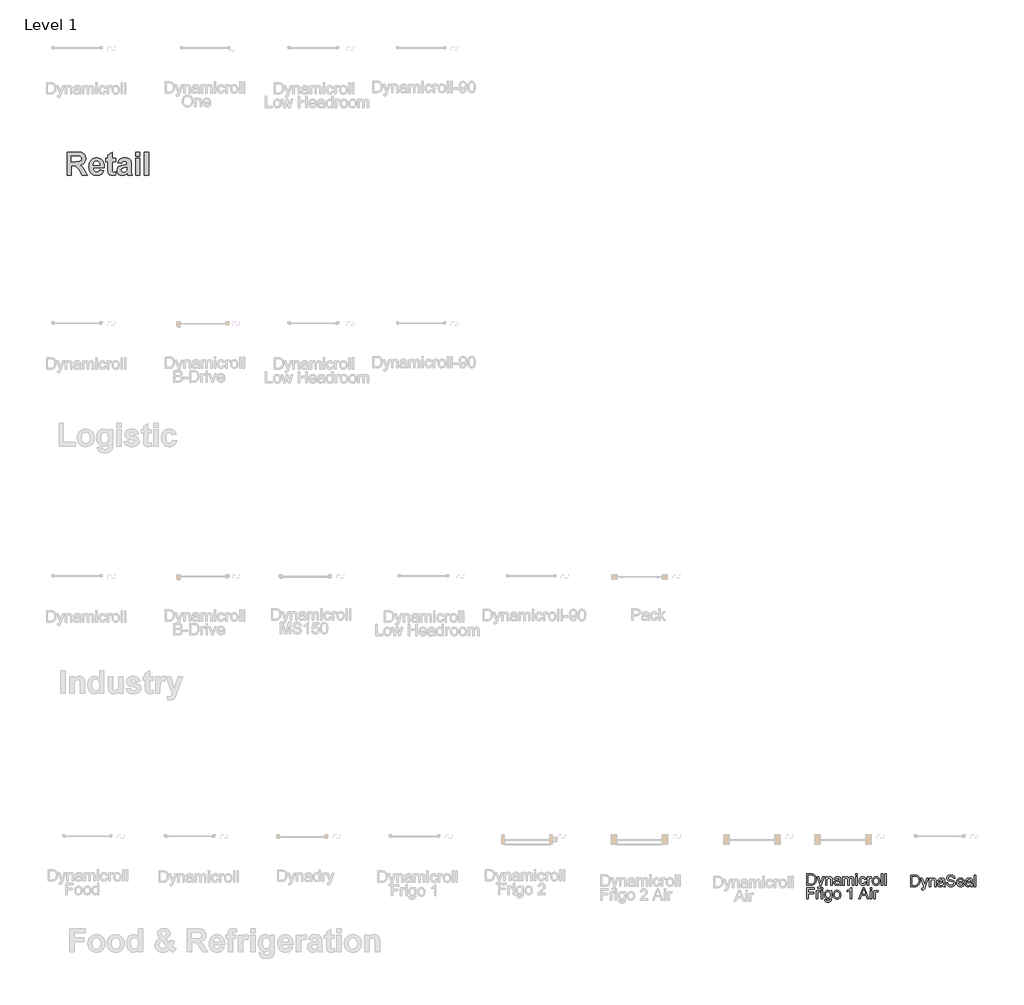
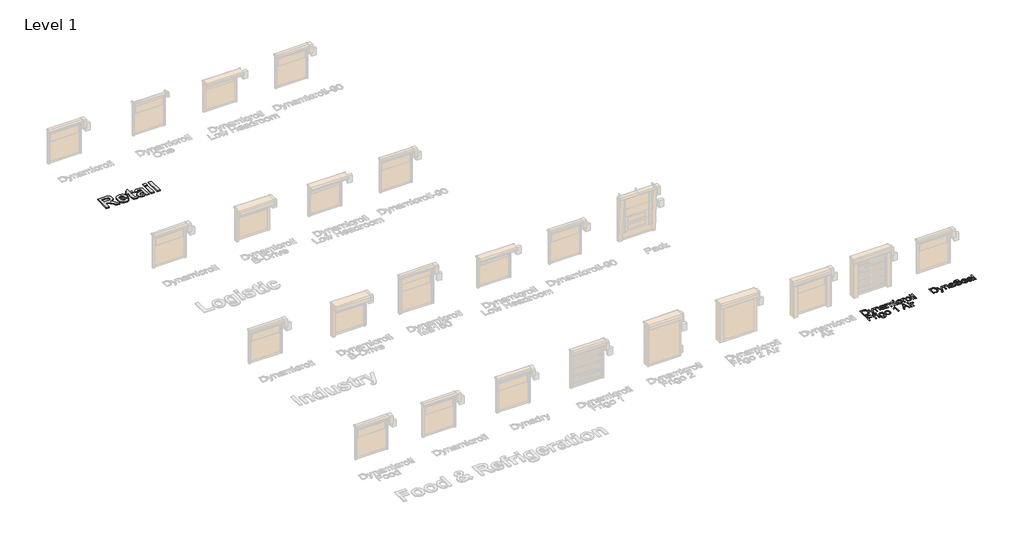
# One storey, part 12 of 20: 3 proxies.
"""IFC4 building model written with IfcOpenShell, lengths in millimetres."""

import ifcopenshell
import ifcopenshell.guid

model = None  # the IFC model being written
_history = None  # IfcOwnerHistory: only IFC2X3 demands one
_inside = {}  # id of a spatial element -> (the spatial element, [elements in it])
_under = {}  # id of a project, library or spatial element -> (it, [spatial elements below it])
_declared = {}  # id of a project -> (the project, [libraries it declares])
_typed = {}  # id of a type object -> (the type object, [elements of that type])
_made_of = {}  # id of a material, layer set ... -> (it, [elements and type objects made of it])


def new_model(schema):
    """Start an empty IFC model of exactly this schema.

    Asked for "IFC4X3", IfcOpenShell would pick the latest addendum, in which some entities
    have other attributes; the version numbers below select the first issue.
    IFC2X3 requires an IfcOwnerHistory on every rooted entity: one is made here for all.
    """
    global model, _history
    if schema == "IFC4X3":
        model = ifcopenshell.file(schema_version=(4, 3, 0, 0))
    else:
        model = ifcopenshell.file(schema=schema)
    _inside.clear()
    _under.clear()
    _declared.clear()
    _typed.clear()
    _made_of.clear()
    _history = None
    if model.schema == "IFC2X3":
        org = make("IfcOrganization", Name="unknown")
        user = make(
            "IfcPersonAndOrganization",
            ThePerson=make("IfcPerson", FamilyName="unknown"),
            TheOrganization=org,
        )
        app = make(
            "IfcApplication",
            ApplicationDeveloper=org,
            Version="unknown",
            ApplicationFullName="unknown",
            ApplicationIdentifier="unknown",
        )
        _history = make(
            "IfcOwnerHistory",
            OwningUser=user,
            OwningApplication=app,
            ChangeAction="ADDED",
            CreationDate=0,
        )
    return model


def make(cls, **values):
    """One entity of the class cls with the attributes given. An attribute that is None is left unset."""
    return model.create_entity(
        cls, **{name: value for name, value in values.items() if value is not None}
    )


def rooted(cls, **values):
    """An entity with a GlobalId (a new one), such as an element, a storey or a relation."""
    return make(cls, GlobalId=ifcopenshell.guid.new(), OwnerHistory=_history, **values)


def si_unit(unit_type, name, prefix=None):
    """IfcSIUnit, for example si_unit("LENGTHUNIT", "METRE", prefix="MILLI")."""
    return make("IfcSIUnit", UnitType=unit_type, Prefix=prefix, Name=name)


def assignment(units):
    """IfcUnitAssignment: the units of a project."""
    return None if units is None else make("IfcUnitAssignment", Units=units)


def point(xyz):
    """IfcCartesianPoint."""
    return None if xyz is None else make("IfcCartesianPoint", Coordinates=xyz)


def direction(xyz):
    """IfcDirection."""
    return None if xyz is None else make("IfcDirection", DirectionRatios=xyz)


def frame(location, z_axis=None, x_axis=None):
    """IfcAxis2Placement3D, a coordinate frame: its origin and axes. An axis left out is left unset."""
    return make(
        "IfcAxis2Placement3D",
        Location=point(location),
        Axis=direction(z_axis),
        RefDirection=direction(x_axis),
    )


def origin():
    """The frame at (0, 0, 0) with its axes left unset."""
    return frame((0.0, 0.0, 0.0))


def origin_with_axes():
    """The frame at (0, 0, 0) with the z axis (0, 0, 1) and the x axis (1, 0, 0) written out."""
    return frame((0.0, 0.0, 0.0), z_axis=(0.0, 0.0, 1.0), x_axis=(1.0, 0.0, 0.0))


def place(relative_to, where):
    """IfcLocalPlacement: puts the frame where relative to a parent placement (None: the world)."""
    return make(
        "IfcLocalPlacement", PlacementRelTo=relative_to, RelativePlacement=where
    )


def context(
    kind, dimensions, precision=None, world=None, true_north=None, identifier=None
):
    """IfcGeometricRepresentationContext, for example the 3D "Model" context."""
    return make(
        "IfcGeometricRepresentationContext",
        ContextIdentifier=identifier,
        ContextType=kind,
        CoordinateSpaceDimension=dimensions,
        Precision=precision,
        WorldCoordinateSystem=world,
        TrueNorth=true_north,
    )


def project(units=None, contexts=None):
    """IfcProject with its units and contexts."""
    return rooted(
        "IfcProject",
        Name="project",
        RepresentationContexts=contexts,
        UnitsInContext=assignment(units),
    )


def spatial(cls, under=None, at=None, **own):
    """A site, building, storey or space (cls), placed at a placement, below another one or the project."""
    s = rooted(cls, ObjectPlacement=at, **own)
    if under is not None:
        _under.setdefault(under.id(), (under, []))[1].append(s)
    return s


def polyline(points):
    """IfcPolyline through the points."""
    return make("IfcPolyline", Points=[point(p) for p in points])


def outline(outer, holes=None, kind="AREA"):
    """IfcArbitraryClosedProfileDef: a profile drawn as a closed curve; with holes, ...WithVoids."""
    if holes is None:
        return make("IfcArbitraryClosedProfileDef", ProfileType=kind, OuterCurve=outer)
    return make(
        "IfcArbitraryProfileDefWithVoids",
        ProfileType=kind,
        OuterCurve=outer,
        InnerCurves=holes,
    )


def extrude(swept, where, along, depth):
    """IfcExtrudedAreaSolid: the profile swept, set in the frame where, extruded along a direction by depth."""
    return make(
        "IfcExtrudedAreaSolid",
        SweptArea=swept,
        Position=where,
        ExtrudedDirection=direction(along),
        Depth=depth,
    )


def shape(context_of_items, identifier, shape_type, items):
    """IfcShapeRepresentation: the items that make up one representation, for example the "Body"."""
    return make(
        "IfcShapeRepresentation",
        ContextOfItems=context_of_items,
        RepresentationIdentifier=identifier,
        RepresentationType=shape_type,
        Items=items,
    )


def made_of(thing, what):
    """Note that an element or type object is made of a material, layer set ...; save() writes the relation."""
    if what is not None:
        _made_of.setdefault(what.id(), (what, []))[1].append(thing)
    return thing


def element(
    cls,
    number,
    at=None,
    inside=None,
    cuts=None,
    type_object=None,
    material=None,
    context=None,
    identifier="Body",
    shape_type=None,
    held_by="IfcProductDefinitionShape",
    body=None,
    shapes=None,
    **own,
):
    """One element of the class cls, such as IfcWall. Its Tag is "e" and its number.

    at: its placement. inside: the storey or other place that contains it. cuts: it is an
    opening in that element (IfcRelVoidsElement). A single representation is given by context,
    identifier, shape_type and body (its items); several are given by shapes. held_by: the class
    of the entity that holds the representations. save() writes the other relations.
    """
    e = rooted(cls, Tag="e%d" % number, ObjectPlacement=at, **own)
    if body is not None:
        shapes = [shape(context, identifier, shape_type, body)]
    if shapes is not None:
        e.Representation = make(held_by, Representations=shapes)
    if inside is not None:
        _inside.setdefault(inside.id(), (inside, []))[1].append(e)
    if cuts is not None:
        rooted(
            "IfcRelVoidsElement", RelatingBuildingElement=cuts, RelatedOpeningElement=e
        )
    if type_object is not None:
        _typed.setdefault(type_object.id(), (type_object, []))[1].append(e)
    return made_of(e, material)


def aggregate(whole, parts):
    """IfcRelAggregates: a whole, such as a stair, and the parts it consists of."""
    return rooted("IfcRelAggregates", RelatingObject=whole, RelatedObjects=parts)


def save(model, path):
    """Write the relations noted so far, then the file.

    IfcRelAggregates (storeys below a building ...), IfcRelContainedInSpatialStructure (elements
    in a storey), IfcRelDefinesByType, IfcRelAssociatesMaterial and IfcRelDeclares: one each for
    every whole, place, type object, material and project.
    """
    for whole, parts in _under.values():
        aggregate(whole, parts)
    for where, things in _inside.values():
        rooted(
            "IfcRelContainedInSpatialStructure",
            RelatedElements=things,
            RelatingStructure=where,
        )
    for kind, things in _typed.values():
        rooted("IfcRelDefinesByType", RelatedObjects=things, RelatingType=kind)
    for what, things in _made_of.values():
        rooted("IfcRelAssociatesMaterial", RelatedObjects=things, RelatingMaterial=what)
    for by, libraries in _declared.values():
        rooted("IfcRelDeclares", RelatingContext=by, RelatedDefinitions=libraries)
    model.write(path)


model = new_model("IFC4")

# Units and contexts
model_context = context("Model", 3, world=origin())
ifc_project = project(units=[si_unit("LENGTHUNIT", "METRE", prefix="MILLI")], contexts=[model_context])

# Site, building, storey
site = spatial("IfcSite", under=ifc_project)
building = spatial("IfcBuilding", under=site)
storey = spatial("IfcBuildingStorey", under=building, Name="Level 1", Elevation=0.0)

# Proxies
placement = place(None, origin())
element("IfcBuildingElementProxy", 1, Name="1000", ObjectType="1000", at=placement, inside=storey, context=model_context, shape_type="SweptSolid", body=[
    extrude(outline(polyline([(1045.7794526, 38987.0003222), (1045.7794526, 40007.2597221), (1474.9361844, 40007.2597221), (1550.3738911, 40005.5358836), (1614.7410749, 40000.3643678), (1668.0377356, 39991.7451749), (1710.2638733, 39979.6783048), (1745.1202058, 39963.1990406), (1776.3074506, 39941.3426652), (1803.8256077, 39914.1091786), (1827.6746773, 39881.4985808), (1846.9373873, 39844.9184098), (1860.6964659, 39805.7762035), (1868.9519131, 39764.0719618), (1871.7037288, 39719.8056849), (1867.726248, 39664.6270352), (1855.7938057, 39614.477566), (1835.9064019, 39569.3572772), (1808.0640366, 39529.2661689), (1772.2983397, 39495.1689581), (1728.6409415, 39468.0303617), (1677.0918419, 39447.8503798), (1617.6510409, 39434.6290123), (1674.015818, 39394.0160079), (1719.6263728, 39349.6073956), (1766.8184308, 39285.271842), (1827.9277178, 39184.8780134), (1952.676697, 38987.0003222), (1725.6993454, 38987.0003222), (1577.9236784, 39220.0506464), (1506.53462, 39309.5321024), (1461.9045973, 39358.3372938), (1429.7051904, 39382.3445137), (1395.6079795, 39397.432055), (1350.3453555, 39405.4028316), (1284.649709, 39408.0597571), (1240.1145764, 39408.0597571), (1240.1145764, 38987.0003222), (1045.7794526, 38987.0003222)]), holes=[polyline([(1240.1145764, 39586.2002872), (1400.2892293, 39586.2002872), (1526.7146019, 39589.1418834), (1568.0313753, 39592.8188785), (1594.7508733, 39597.9666717), (1629.3541652, 39613.9714849), (1655.4805995, 39638.4531558), (1665.0566019, 39653.706755), (1671.8966036, 39670.7474529), (1677.368605, 39710.1901449), (1675.5656912, 39733.1931102), (1670.15695, 39753.8712656), (1661.1423813, 39772.2246113), (1648.521985, 39788.2531471), (1632.612062, 39801.7512776), (1613.7289127, 39812.5134075), (1591.8725373, 39820.5395367), (1567.0429357, 39825.8296652), (1409.1456477, 39829.119192), (1240.1145764, 39829.119192), (1240.1145764, 39586.2002872)])]), origin_with_axes(), (0.0, 0.0, 1.0), 50.0),
    extrude(outline(polyline([(2487.0982875, 39213.7246333), (2681.4334113, 39181.335446), (2660.4310477, 39132.9177229), (2634.114833, 39090.6520476), (2602.4847672, 39054.53842), (2565.5408505, 39024.5768403), (2523.457048, 39001.0519789), (2476.4073253, 38984.2485065), (2424.3916822, 38974.166423), (2367.4101188, 38970.8057285), (2321.8746854, 38972.7865614), (2279.3994609, 38978.72906), (2239.9844453, 38988.6332243), (2203.6296385, 39002.4990544), (2170.3350406, 39020.3265502), (2140.1006515, 39042.1157117), (2112.9264713, 39067.866539), (2088.8124999, 39097.579032), (2057.593625, 39151.6506293), (2035.2944287, 39212.3961705), (2021.9149109, 39279.8156556), (2017.4550716, 39353.9090846), (2023.3698939, 39441.2713261), (2030.7634218, 39481.2042841), (2041.1143608, 39518.6384669), (2054.422711, 39553.5738744), (2070.6884722, 39586.0105068), (2089.9116447, 39615.9483641), (2112.0922283, 39643.3874461), (2136.5343616, 39667.9402846), (2162.5421831, 39689.2194113), (2190.1156929, 39707.2248262), (2219.2548909, 39721.9565293), (2249.9597772, 39733.4145206), (2282.2303518, 39741.5988001), (2316.0666146, 39746.5093678), (2351.4685657, 39748.1462237), (2391.0101016, 39746.4658765), (2428.4087005, 39741.4248348), (2463.6643625, 39733.0230986), (2496.7770876, 39721.2606679), (2527.7468757, 39706.1375427), (2556.5737269, 39687.653723), (2583.257641, 39665.8092089), (2607.7986183, 39640.6040003), (2629.7380226, 39611.9273919), (2648.6172181, 39579.6686787), (2664.4362047, 39543.8278604), (2677.1949825, 39504.4049373), (2686.8935514, 39461.3999092), (2693.5319114, 39414.8127761), (2697.1100626, 39364.6435381), (2697.6280049, 39310.8921952), (2211.7901954, 39310.8921952), (2215.411838, 39267.4008548), (2224.2524413, 39229.0335851), (2238.3120055, 39195.790386), (2257.5905306, 39167.6712576), (2280.8228139, 39145.3088011), (2306.7436527, 39129.3356179), (2335.3530472, 39119.751708), (2366.6509972, 39116.5570714), (2407.453782, 39122.3137434), (2425.245694, 39129.5095833), (2441.2979523, 39139.5837592), (2455.5472969, 39152.8525718), (2467.9304677, 39169.6323217), (2487.0982875, 39213.7246333)]), holes=[polyline([(2503.2928811, 39424.2543507), (2499.8293889, 39465.2864535), (2491.4632366, 39501.0837804), (2478.194424, 39531.6463314), (2460.0229512, 39556.9741065), (2438.2930961, 39576.8456953), (2414.3491363, 39591.0396873), (2388.191072, 39599.5560825), (2359.818903, 39602.3948809), (2329.6754504, 39599.4058397), (2302.2521834, 39590.438716), (2277.5491021, 39575.49351), (2255.5662064, 39554.5702215), (2237.6635892, 39528.3963421), (2224.9483028, 39497.9524039), (2217.4203471, 39463.2384067), (2215.0797223, 39424.2543507), (2503.2928811, 39424.2543507)])]), origin_with_axes(), (0.0, 0.0, 1.0), 50.0),
    extrude(outline(polyline([(3199.6604081, 39731.9516301), (3199.6604081, 39586.2002872), (3053.9090652, 39586.2002872), (3053.9090652, 39266.6101032), (3055.0161175, 39189.9071938), (3058.3372744, 39153.6275084), (3065.5805595, 39138.9511579), (3078.4539962, 39127.0582532), (3095.8505324, 39119.1823668), (3116.6631156, 39116.5570714), (3155.1252756, 39121.2383211), (3207.7577049, 39135.2820703), (3215.8550017, 38997.1219432), (3179.5278713, 38985.6085993), (3140.891746, 38977.3847822), (3099.9466259, 38972.450492), (3056.692511, 38970.8057285), (3004.9457235, 38975.360458), (2958.512787, 38989.0246464), (2920.5883382, 39009.9004898), (2894.3670137, 39036.0901842), (2877.0653678, 39070.0608748), (2865.8999546, 39114.2797067), (2861.1554447, 39167.1019164), (2859.5739414, 39255.7293606), (2859.5739414, 39586.2002872), (2762.4063795, 39586.2002872), (2762.4063795, 39731.9516301), (2859.5739414, 39731.9516301), (2859.5739414, 39877.7029729), (3053.9090652, 39991.0651285), (3053.9090652, 39731.9516301), (3199.6604081, 39731.9516301)])), origin_with_axes(), (0.0, 0.0, 1.0), 50.0),
    extrude(outline(polyline([(3474.9685001, 39505.227319), (3296.82797, 39537.6165063), (3313.5681823, 39587.7817905), (3335.4482802, 39630.9884603), (3362.4682639, 39667.2365156), (3394.6281332, 39696.5259565), (3433.5568366, 39719.1098234), (3480.8833224, 39735.2411569), (3536.6075907, 39744.919957), (3600.7296415, 39748.1462237), (3658.8815173, 39746.1930672), (3709.0942466, 39740.3335975), (3751.3678295, 39730.5678147), (3785.7022658, 39716.8957188), (3813.8213942, 39700.2266742), (3837.4490533, 39681.4700452), (3856.5852431, 39660.6258319), (3871.2299635, 39637.6940342), (3882.0790761, 39608.6971715), (3889.8284422, 39569.6577629), (3894.4780618, 39520.5758084), (3896.027935, 39461.451308), (3896.027935, 39231.6905106), (3898.5899704, 39146.4158534), (3906.2760763, 39086.9513299), (3920.9840569, 39038.6838496), (3944.611716, 38987.0003222), (3750.2765922, 38987.0003222), (3732.0576743, 39048.7422105), (3725.2255801, 39073.2871415), (3674.9337756, 39028.5305985), (3621.225924, 38996.4893419), (3593.0593505, 38985.2527611), (3563.9755051, 38977.2266319), (3533.9743878, 38972.4109544), (3503.0559985, 38970.8057285), (3450.573812, 38974.7041341), (3403.9590026, 38986.3993509), (3363.2115704, 39005.8913789), (3328.3315155, 39033.1802181), (3300.3784449, 39066.4155097), (3280.4119659, 39103.7468948), (3268.4320785, 39145.1743734), (3264.4387827, 39190.6979454), (3266.2179739, 39221.3474791), (3271.5555475, 39250.2889893), (3280.4515035, 39277.5224759), (3292.9058418, 39303.0479389), (3308.5706319, 39326.2802222), (3327.0979429, 39346.6341695), (3348.4877748, 39364.1097808), (3372.7401277, 39378.7070561), (3435.430918, 39403.3152472), (3520.7688353, 39424.5073913), (3631.2842849, 39449.4951432), (3701.6928112, 39472.8381317), (3701.6928112, 39493.3344143), (3700.1824756, 39520.6944211), (3695.6514687, 39543.8159992), (3688.0997905, 39562.6991484), (3677.527441, 39577.3438688), (3662.7799229, 39588.3036866), (3642.7027387, 39596.1321279), (3617.2958884, 39600.8291926), (3586.559372, 39602.3948809), (3546.2626683, 39597.0177697), (3529.8624792, 39590.2963808), (3515.9610653, 39580.8864362), (3503.9100103, 39568.0920746), (3493.0608977, 39551.2174346), (3474.9685001, 39505.227319)]), holes=[polyline([(3701.6928112, 39327.0867888), (3592.1262636, 39300.1379728), (3530.1313348, 39284.6708707), (3493.9465396, 39269.393549), (3478.5585126, 39256.409407), (3467.5670648, 39241.7488715), (3460.9721961, 39225.4119426), (3458.7739065, 39207.3986201), (3460.5372827, 39189.5513556), (3465.8274112, 39172.9534786), (3474.644292, 39157.6049892), (3486.9879251, 39143.5058874), (3502.0517439, 39131.7157804), (3519.0291817, 39123.2942754), (3537.9202385, 39118.2413724), (3558.7249142, 39116.5570714), (3582.8428393, 39118.5181355), (3606.3597932, 39124.4013277), (3629.2757758, 39134.2066481), (3651.5907871, 39147.9340966), (3678.7926437, 39174.3768315), (3694.6076765, 39206.1334175), (3699.9215276, 39238.8389055), (3701.6928112, 39291.9141558), (3701.6928112, 39327.0867888)])]), origin_with_axes(), (0.0, 0.0, 1.0), 50.0),
    extrude(outline(polyline([(4090.3630589, 39829.119192), (4090.3630589, 40007.2597221), (4284.6981827, 40007.2597221), (4284.6981827, 39829.119192), (4090.3630589, 39829.119192)])), origin_with_axes(), (0.0, 0.0, 1.0), 50.0),
    extrude(outline(polyline([(4090.3630589, 38987.0003222), (4090.3630589, 39731.9516301), (4284.6981827, 39731.9516301), (4284.6981827, 38987.0003222), (4090.3630589, 38987.0003222)])), origin_with_axes(), (0.0, 0.0, 1.0), 50.0),
    extrude(outline(polyline([(4479.0333065, 38987.0003222), (4479.0333065, 40007.2597221), (4673.3684303, 40007.2597221), (4673.3684303, 38987.0003222), (4479.0333065, 38987.0003222)])), origin_with_axes(), (0.0, 0.0, 1.0), 50.0),
])
element("IfcBuildingElementProxy", 2, Name="500mm", ObjectType="500mm", at=placement, inside=storey, context=model_context, shape_type="SweptSolid", body=[
    extrude(outline(polyline([(33930.581434, 7417.4459168), (33930.581434, 7919.7274676), (34103.8538537, 7919.7274676), (34155.6332446, 7917.9187144), (34193.4944332, 7912.492455), (34233.532257, 7898.543596), (34267.3160869, 7876.5626468), (34285.9324487, 7858.5977427), (34302.0502786, 7838.3029193), (34315.6695767, 7815.6781766), (34326.7903428, 7790.7235146), (34341.5975931, 7734.7441377), (34346.5333432, 7671.2844935), (34343.1917484, 7617.3744528), (34333.1669641, 7569.9330038), (34317.8998613, 7529.5426265), (34298.8313112, 7496.7858005), (34276.8810188, 7470.9267619), (34252.9686891, 7451.2297467), (34225.5154952, 7436.6217658), (34192.9426102, 7426.0298301), (34155.1887205, 7419.5918951), (34112.1925123, 7417.4459168), (33930.581434, 7417.4459168)]), holes=[polyline([(33993.3666279, 7480.2311107), (34104.4669904, 7480.2311107), (34150.421583, 7482.4997163), (34185.278402, 7489.3055332), (34211.5819647, 7500.2500226), (34231.8767881, 7514.9346456), (34253.6891247, 7542.111928), (34270.0752019, 7577.2906437), (34280.3299125, 7620.6240771), (34283.7481494, 7672.2655122), (34282.0735199, 7708.7164865), (34277.0496314, 7740.6915633), (34268.6764839, 7768.1907424), (34256.9540774, 7791.2140239), (34242.8327737, 7810.282574), (34227.2629347, 7825.9175588), (34210.2445603, 7838.1189783), (34191.7776506, 7846.8868325), (34155.6639014, 7854.4284134), (34102.7502078, 7856.9422737), (33993.3666279, 7856.9422737), (33993.3666279, 7480.2311107)])]), origin_with_axes(), (0.0, 0.0, 1.0), 5.0),
    extrude(outline(polyline([(34425.0148355, 7276.1792307), (34417.1666863, 7336.6345052), (34449.0497925, 7331.1162753), (34465.8190802, 7332.8483864), (34478.8482342, 7338.0447195), (34488.9956459, 7346.3373929), (34497.1197066, 7357.3585243), (34514.287533, 7403.5890284), (34519.1926263, 7418.7948175), (34385.7740894, 7786.3089307), (34451.9928485, 7786.3089307), (34522.7488189, 7581.5212867), (34547.3969126, 7499.6062291), (34572.0450063, 7571.9563548), (34644.763014, 7786.3089307), (34710.4912638, 7786.3089307), (34582.1004475, 7408.616749), (34548.7458132, 7326.7016914), (34531.6699573, 7300.5514129), (34512.3254957, 7282.4332246), (34489.8540372, 7271.8566172), (34463.3971904, 7268.3310815), (34445.2176884, 7270.2931188), (34425.0148355, 7276.1792307)])), origin_with_axes(), (0.0, 0.0, 1.0), 5.0),
    extrude(outline(polyline([(34762.4852524, 7417.4459168), (34762.4852524, 7786.3089307), (34825.2704463, 7786.3089307), (34825.2704463, 7734.8054513), (34847.0827829, 7760.7717888), (34873.2790467, 7779.3191728), (34903.8592375, 7790.4476031), (34938.8233555, 7794.1570799), (34969.7714283, 7791.1680387), (34998.1136703, 7782.2009151), (35021.7500885, 7768.3746834), (35038.5806898, 7750.8083181), (35050.0003601, 7729.5478045), (35057.4039852, 7704.6391277), (35060.7149232, 7643.9385985), (35060.7149232, 7417.4459168), (34997.9297294, 7417.4459168), (34997.9297294, 7635.4773126), (34996.1209762, 7667.9428987), (34990.6947168, 7691.0274939), (34980.6852608, 7707.5668553), (34965.1269181, 7720.3967399), (34945.1846483, 7728.6280995), (34922.023411, 7731.3718861), (34902.958693, 7729.8313802), (34885.2505399, 7725.2098626), (34868.8989516, 7717.5073334), (34853.9039282, 7706.7237924), (34841.3767799, 7691.6329664), (34832.4288168, 7671.008582), (34827.0600389, 7644.8506393), (34825.2704463, 7613.1591383), (34825.2704463, 7417.4459168), (34762.4852524, 7417.4459168)])), origin_with_axes(), (0.0, 0.0, 1.0), 5.0),
    extrude(outline(polyline([(35382.4890416, 7464.5348122), (35352.4913306, 7438.8137294), (35321.6045714, 7421.9831281), (35289.123657, 7412.6941077), (35254.34348, 7409.5977676), (35226.3882805, 7411.4601702), (35201.8743104, 7417.047378), (35180.8015699, 7426.359391), (35163.1700589, 7439.3962092), (35149.2480246, 7455.3300981), (35139.3037144, 7473.3333233), (35133.3371283, 7493.4058846), (35131.3482663, 7515.5477822), (35134.3526359, 7541.5754334), (35143.3657448, 7565.2118516), (35157.2686185, 7585.4453613), (35174.9422827, 7601.2642871), (35195.712287, 7613.2204519), (35218.9041811, 7621.8656788), (35273.2280891, 7631.3079834), (35337.4234972, 7641.2407972), (35382.1211596, 7652.8903938), (35382.4890416, 7666.8699096), (35378.1664282, 7694.8902549), (35365.1985879, 7713.223041), (35352.1234486, 7721.1631607), (35336.1972239, 7726.8346748), (35295.7915181, 7731.3718861), (35258.3901819, 7728.352188), (35232.2705603, 7719.2930939), (35214.4589403, 7702.5391347), (35201.9816093, 7676.4348414), (35139.1964155, 7684.2829907), (35150.0949196, 7718.6186436), (35166.3583695, 7745.5966565), (35189.5042783, 7766.2287051), (35221.0501594, 7781.5264647), (35259.6317837, 7790.9994261), (35303.884922, 7794.1570799), (35346.3293072, 7791.3673081), (35379.9751813, 7782.9979927), (35405.3437106, 7770.4133628), (35422.9560611, 7754.9776474), (35434.6363145, 7735.8937689), (35442.2085522, 7712.3646496), (35445.2742355, 7657.427605), (35445.2742355, 7579.3139947), (35448.4625461, 7470.2369831), (35453.1836984, 7443.2742986), (35460.9705339, 7417.4459168), (35398.1853401, 7417.4459168), (35388.1298989, 7439.2735819), (35382.4890416, 7464.5348122)]), holes=[polyline([(35382.4890416, 7590.1051999), (35340.3052395, 7579.6512199), (35281.1988656, 7570.8527088), (35227.181526, 7560.6746403), (35213.1253681, 7553.7155392), (35202.7173733, 7544.1199505), (35196.2794384, 7532.6236382), (35194.1334601, 7519.9623662), (35198.8086271, 7501.2923549), (35212.8341282, 7485.9945953), (35235.903395, 7475.7858699), (35267.7098591, 7472.3829615), (35301.4323754, 7476.1384235), (35331.230817, 7487.4048096), (35355.3884013, 7504.0054846), (35372.1883458, 7523.7638134), (35379.6379562, 7544.1199505), (35382.1211596, 7572.3242368), (35382.4890416, 7590.1051999)])]), origin_with_axes(), (0.0, 0.0, 1.0), 5.0),
    extrude(outline(polyline([(35531.603877, 7417.4459168), (35531.603877, 7786.3089307), (35594.3890709, 7786.3089307), (35594.3890709, 7725.6084015), (35613.27368, 7753.490791), (35637.5538916, 7775.3337845), (35666.4019714, 7789.451256), (35698.9901848, 7794.1570799), (35733.9083175, 7789.3592855), (35761.898006, 7774.9659025), (35782.8059661, 7751.9272925), (35796.4789135, 7721.1938175), (35819.3642393, 7753.1152448), (35845.4685326, 7775.9162643), (35874.7917933, 7789.596876), (35907.3340214, 7794.1570799), (35932.4687923, 7792.2601884), (35954.5302157, 7786.5695137), (35973.5182916, 7777.0850561), (35989.43302, 7763.8068153), (36002.0138178, 7746.5815073), (36011.000102, 7725.2558479), (36016.3918725, 7699.8298371), (36018.1891293, 7670.3034749), (36018.1891293, 7417.4459168), (35955.4039355, 7417.4459168), (35955.4039355, 7643.3254619), (35953.9477359, 7674.6414167), (35949.5791372, 7695.7486462), (35941.3937628, 7710.2033429), (35928.4872362, 7721.5616995), (35911.8865611, 7728.9193394), (35892.6187416, 7731.3718861), (35874.8262822, 7729.8007234), (35858.6049855, 7725.0872353), (35843.9548514, 7717.2314219), (35830.8758801, 7706.2332831), (35820.1191638, 7691.7709221), (35812.4357951, 7673.5224423), (35807.8257738, 7651.4878436), (35806.2891001, 7625.6671261), (35806.2891001, 7417.4459168), (35743.5039062, 7417.4459168), (35743.5039062, 7650.3152198), (35739.8710715, 7685.8158323), (35728.9725674, 7711.1383763), (35720.5457705, 7719.9905368), (35709.7967184, 7726.3135086), (35681.3318491, 7731.3718861), (35657.1436079, 7727.9996344), (35634.8560903, 7717.8828796), (35616.4619906, 7701.2668761), (35603.9540027, 7678.3968788), (35596.7803038, 7646.6670567), (35594.3890709, 7603.4715791), (35594.3890709, 7417.4459168), (35531.603877, 7417.4459168)])), origin_with_axes(), (0.0, 0.0, 1.0), 5.0),
    extrude(outline(polyline([(36112.3669201, 7856.9422737), (36112.3669201, 7919.7274676), (36175.1521139, 7919.7274676), (36175.1521139, 7856.9422737), (36112.3669201, 7856.9422737)])), origin_with_axes(), (0.0, 0.0, 1.0), 5.0),
    extrude(outline(polyline([(36112.3669201, 7417.4459168), (36112.3669201, 7786.3089307), (36175.1521139, 7786.3089307), (36175.1521139, 7417.4459168), (36112.3669201, 7417.4459168)])), origin_with_axes(), (0.0, 0.0, 1.0), 5.0),
    extrude(outline(polyline([(36504.7743816, 7550.8644538), (36567.5595754, 7543.0163045), (36560.7307659, 7513.3903076), (36550.0545238, 7487.1748833), (36535.5308492, 7464.3700317), (36517.1597421, 7444.9757528), (36495.7152875, 7429.4978843), (36471.9715704, 7418.4422639), (36445.9285908, 7411.8088917), (36417.5863487, 7409.5977676), (36382.373144, 7412.6826114), (36350.8004382, 7421.9371429), (36322.8682313, 7437.3613619), (36298.5765233, 7458.9552686), (36278.9139971, 7486.3126599), (36264.8693355, 7519.0273328), (36256.4425385, 7557.0992872), (36253.6336062, 7600.5285231), (36258.4314006, 7656.4006011), (36272.8247836, 7704.8230687), (36283.6773025, 7725.7731819), (36297.0436817, 7743.9258591), (36312.9239211, 7759.2811003), (36331.3180209, 7771.8389055), (36372.3215349, 7788.5775363), (36416.7279574, 7794.1570799), (36444.5835222, 7792.2410278), (36469.7796068, 7786.4928717), (36492.3162111, 7776.9126114), (36512.1933352, 7763.500247), (36529.0737538, 7746.5623468), (36542.6202418, 7726.4054791), (36552.8327993, 7703.029644), (36559.7114262, 7676.4348414), (36496.9262324, 7668.5866922), (36485.5372189, 7695.9785724), (36467.8022411, 7715.6142739), (36444.7023175, 7727.432483), (36417.2184667, 7731.3718861), (36395.8851431, 7729.4328414), (36376.6441484, 7723.6157073), (36359.4954824, 7713.9204839), (36344.4391454, 7700.3471711), (36332.1802443, 7682.5815364), (36323.4238864, 7660.3093473), (36318.1700716, 7633.5306038), (36316.4188001, 7602.2453057), (36318.1317506, 7570.4886589), (36323.2706022, 7543.3995149), (36331.8353549, 7520.9778738), (36343.8260087, 7503.2237354), (36358.5834417, 7489.7308968), (36375.4485319, 7480.0931549), (36394.4212794, 7474.3105098), (36415.5016841, 7472.3829615), (36448.0132554, 7477.1960842), (36474.6693717, 7491.6354525), (36485.4490805, 7502.5569493), (36494.0598185, 7516.0689484), (36504.7743816, 7550.8644538)])), origin_with_axes(), (0.0, 0.0, 1.0), 5.0),
    extrude(outline(polyline([(36622.4966201, 7417.4459168), (36622.4966201, 7786.3089307), (36677.4336647, 7786.3089307), (36677.4336647, 7731.7397681), (36697.7284881, 7763.3776196), (36716.4291562, 7782.0169741), (36735.1911379, 7791.1220534), (36755.6699023, 7794.1570799), (36786.9398719, 7789.3133003), (36818.7003508, 7774.7819615), (36797.7310771, 7718.4960162), (36775.6581574, 7728.1529186), (36753.5852377, 7731.3718861), (36734.8385843, 7728.2755459), (36718.0846251, 7718.9865256), (36704.5496334, 7704.2099321), (36695.4598824, 7684.6508727), (36687.826331, 7649.5794558), (36685.2818139, 7611.3197283), (36685.2818139, 7417.4459168), (36622.4966201, 7417.4459168)])), origin_with_axes(), (0.0, 0.0, 1.0), 5.0),
    extrude(outline(polyline([(36842.2447985, 7601.8774238), (36845.6400428, 7649.6484337), (36855.8257755, 7690.8128961), (36872.8019967, 7725.370811), (36896.5687065, 7753.3221784), (36920.4963646, 7771.1874478), (36946.9072261, 7783.9483545), (36975.8012912, 7791.6048986), (37007.1785597, 7794.1570799), (37041.8169488, 7791.0492435), (37073.1367357, 7781.7257341), (37101.1379205, 7766.186552), (37125.8205031, 7744.4316969), (37145.9658745, 7717.1969329), (37160.3554254, 7685.2180241), (37168.989156, 7648.4949703), (37171.8670662, 7607.0277717), (37166.7780319, 7543.5987844), (37160.4167391, 7517.563469), (37151.5109291, 7495.3142725), (37140.171733, 7476.0962703), (37126.5102819, 7459.154538), (37110.5265756, 7444.4890756), (37092.2206142, 7432.099883), (37051.4930117, 7415.2232965), (37007.1785597, 7409.5977676), (36972.0343328, 7412.6941077), (36940.423306, 7421.9831281), (36912.3454791, 7437.4648287), (36887.8008522, 7459.1392096), (36867.8700787, 7486.6383888), (36853.6338119, 7519.5944842), (36845.0920519, 7558.0074958), (36842.2447985, 7601.8774238)]), holes=[polyline([(36905.0299923, 7602.0000511), (36906.8464097, 7571.5463197), (36912.2956618, 7545.1776112), (36921.3777485, 7522.8939258), (36934.09267, 7504.6952634), (36949.5590422, 7490.5586313), (36966.8954812, 7480.4610369), (36986.101987, 7474.4024803), (37007.1785597, 7472.3829615), (37028.1478334, 7474.4139766), (37047.2776971, 7480.5070222), (37064.5681509, 7490.6620981), (37080.0191947, 7504.8792044), (37092.7341162, 7523.2579757), (37101.8162029, 7545.8980468), (37107.265455, 7572.7994177), (37109.0818723, 7603.9620884), (37107.2539587, 7633.4501296), (37101.7702177, 7659.1290593), (37092.6306494, 7680.9988774), (37079.8352537, 7699.0595841), (37064.3267284, 7713.1962162), (37047.0477709, 7723.2938106), (37027.9983813, 7729.3523672), (37007.1785597, 7731.3718861), (36986.101987, 7729.3600314), (36966.8954812, 7723.3244674), (36949.5590422, 7713.2651941), (36934.09267, 7699.1822115), (36921.3777485, 7681.0371985), (36912.2956618, 7658.7918341), (36906.8464097, 7632.4461183), (36905.0299923, 7602.0000511)])]), origin_with_axes(), (0.0, 0.0, 1.0), 5.0),
    extrude(outline(polyline([(37242.5004093, 7417.4459168), (37242.5004093, 7919.7274676), (37305.2856031, 7919.7274676), (37305.2856031, 7417.4459168), (37242.5004093, 7417.4459168)])), origin_with_axes(), (0.0, 0.0, 1.0), 5.0),
    extrude(outline(polyline([(37399.4633939, 7417.4459168), (37399.4633939, 7919.7274676), (37462.2485877, 7919.7274676), (37462.2485877, 7417.4459168), (37399.4633939, 7417.4459168)])), origin_with_axes(), (0.0, 0.0, 1.0), 5.0),
    extrude(outline(polyline([(33930.581434, 6807.5718276), (33930.581434, 7309.8533784), (34268.0518509, 7309.8533784), (34268.0518509, 7247.0681845), (33993.3666279, 7247.0681845), (33993.3666279, 7097.9533491), (34228.8111048, 7097.9533491), (34228.8111048, 7035.1681553), (33993.3666279, 7035.1681553), (33993.3666279, 6807.5718276), (33930.581434, 6807.5718276)])), origin_with_axes(), (0.0, 0.0, 1.0), 5.0),
    extrude(outline(polyline([(34346.5333432, 6807.5718276), (34346.5333432, 7176.4348414), (34401.4703878, 7176.4348414), (34401.4703878, 7121.8656788), (34421.7652112, 7153.5035304), (34440.4658793, 7172.1428848), (34459.2278611, 7181.2479642), (34479.7066255, 7184.2829907), (34510.9765951, 7179.4392111), (34542.737074, 7164.9078723), (34521.7678003, 7108.621927), (34499.6948806, 7118.2788294), (34477.6219608, 7121.4977968), (34458.8753075, 7118.4014567), (34442.1213483, 7109.1124363), (34428.5863566, 7094.3358429), (34419.4966056, 7074.7767834), (34411.8630542, 7039.7053666), (34409.3185371, 7001.4456391), (34409.3185371, 6807.5718276), (34346.5333432, 6807.5718276)])), origin_with_axes(), (0.0, 0.0, 1.0), 5.0),
    extrude(outline(polyline([(34581.9778201, 7247.0681845), (34581.9778201, 7309.8533784), (34644.763014, 7309.8533784), (34644.763014, 7247.0681845), (34581.9778201, 7247.0681845)])), origin_with_axes(), (0.0, 0.0, 1.0), 5.0),
    extrude(outline(polyline([(34581.9778201, 6807.5718276), (34581.9778201, 7176.4348414), (34644.763014, 7176.4348414), (34644.763014, 6807.5718276), (34581.9778201, 6807.5718276)])), origin_with_axes(), (0.0, 0.0, 1.0), 5.0),
    extrude(outline(polyline([(34723.2445063, 6776.1792307), (34786.0297001, 6768.3310815), (34792.9581444, 6748.7107084), (34806.3858372, 6735.2217019), (34832.7813704, 6724.737065), (34867.3316211, 6721.2421861), (34904.1811342, 6725.1969175), (34931.5883429, 6737.0611119), (34950.5955793, 6756.0683483), (34962.2451758, 6781.452206), (34965.6480843, 6808.4608758), (34966.5371324, 6854.660723), (34945.6445008, 6834.0593313), (34922.3299793, 6819.3440515), (34896.5935681, 6810.5148836), (34868.435267, 6807.5718276), (34834.0114758, 6810.9977287), (34803.7033643, 6821.2754319), (34777.5109327, 6838.4049373), (34755.4341809, 6862.3862449), (34737.9176329, 6891.1576826), (34725.405813, 6922.6575784), (34717.898721, 6956.8859324), (34715.3963571, 6993.8427445), (34719.8875831, 7044.5338178), (34733.3612612, 7091.1475322), (34755.3422104, 7130.6488615), (34769.3447188, 7146.5942467), (34785.3552498, 7160.002779), (34803.1170524, 7170.6253716), (34822.3733756, 7178.2129378), (34843.1242194, 7182.7654774), (34865.3695838, 7184.2829907), (34894.7311655, 7180.8494254), (34921.3796175, 7170.5487295), (34945.3149398, 7153.3809031), (34966.5371324, 7129.3459461), (34966.5371324, 7176.4348414), (35029.3223263, 7176.4348414), (35029.3223263, 6857.971661), (35025.0303697, 6784.4412472), (35019.6654239, 6757.0915201), (35012.1544998, 6736.0187796), (34989.9742812, 6703.9057471), (34957.7692782, 6679.3036386), (34938.0837594, 6670.1832308), (34916.244598, 6663.6686538), (34866.1053477, 6658.4569922), (34835.345048, 6660.2925701), (34807.6887526, 6665.7993037), (34783.1364615, 6674.9771931), (34761.6881748, 6687.8262382), (34744.3632321, 6704.3617674), (34732.1809731, 6724.5991093), (34725.1413978, 6748.5382637), (34723.2445063, 6776.1792307)]), holes=[polyline([(34778.1815509, 6998.1347011), (34779.8561804, 6967.0908257), (34784.8800689, 6940.5458405), (34793.2532164, 6918.4997455), (34804.9756229, 6900.9525407), (34819.2272181, 6887.567001), (34835.1879317, 6878.0059013), (34852.8577638, 6872.2692414), (34872.2367143, 6870.3570215), (34891.4240596, 6872.2577451), (34909.0095854, 6877.959916), (34924.9932917, 6887.4635342), (34939.3751785, 6900.7685997), (34951.2585333, 6918.1433598), (34959.7466439, 6939.8560617), (34964.8395103, 6965.9067055), (34966.5371324, 6996.2952911), (34964.789693, 7025.4154503), (34959.5473745, 7050.726498), (34950.8101771, 7072.2284342), (34938.5781008, 7089.9212589), (34923.8858136, 7103.7359943), (34907.7679837, 7113.6036624), (34890.2246111, 7119.5242632), (34871.2556957, 7121.4977968), (34852.6048449, 7119.55492), (34835.4025296, 7113.7262897), (34819.6487495, 7104.0119057), (34805.3435049, 7090.4117682), (34793.46015, 7072.9871908), (34784.9720394, 7051.7994872), (34779.879173, 7026.8486573), (34778.1815509, 6998.1347011)])]), origin_with_axes(), (0.0, 0.0, 1.0), 5.0),
    extrude(outline(polyline([(35107.8038186, 6992.0033345), (35111.1990628, 7039.7743444), (35121.3847956, 7080.9388069), (35138.3610168, 7115.4967218), (35162.1277265, 7143.4480892), (35186.0553846, 7161.3133586), (35212.4662462, 7174.0742653), (35241.3603112, 7181.7308093), (35272.7375797, 7184.2829907), (35307.3759689, 7181.1751542), (35338.6957558, 7171.8516449), (35366.6969406, 7156.3124627), (35391.3795232, 7134.5576077), (35411.5248945, 7107.3228437), (35425.9144455, 7075.3439349), (35434.5481761, 7038.6208811), (35437.4260863, 6997.1536825), (35432.337052, 6933.7246951), (35425.9757592, 6907.6893798), (35417.0699492, 6885.4401833), (35405.7307531, 6866.2221811), (35392.0693019, 6849.2804488), (35376.0855957, 6834.6149864), (35357.7796343, 6822.2257938), (35317.0520318, 6805.3492072), (35272.7375797, 6799.7236784), (35237.5933529, 6802.8200185), (35205.982326, 6812.1090389), (35177.9044992, 6827.5907395), (35153.3598723, 6849.2651204), (35133.4290988, 6876.7642995), (35119.192832, 6909.7203949), (35110.6510719, 6948.1334066), (35107.8038186, 6992.0033345)]), holes=[polyline([(35170.5890124, 6992.1259619), (35172.4054298, 6961.6722304), (35177.8546818, 6935.303522), (35186.9367686, 6913.0198366), (35199.65169, 6894.8211741), (35215.1180623, 6880.684542), (35232.4545013, 6870.5869477), (35251.6610071, 6864.5283911), (35272.7375797, 6862.5088722), (35293.7068535, 6864.5398874), (35312.8367172, 6870.632933), (35330.127171, 6880.7880089), (35345.5782148, 6895.0051151), (35358.2931363, 6913.3838865), (35367.375223, 6936.0239576), (35372.8244751, 6962.9253285), (35374.6408924, 6994.0879992), (35372.8129787, 7023.5760403), (35367.3292378, 7049.25497), (35358.1896694, 7071.1247882), (35345.3942738, 7089.1854949), (35329.8857484, 7103.322127), (35312.606791, 7113.4197214), (35293.5574014, 7119.478278), (35272.7375797, 7121.4977968), (35251.6610071, 7119.4859422), (35232.4545013, 7113.4503782), (35215.1180623, 7103.3911049), (35199.65169, 7089.3081223), (35186.9367686, 7071.1631093), (35177.8546818, 7048.9177449), (35172.4054298, 7022.5720291), (35170.5890124, 6992.1259619)])]), origin_with_axes(), (0.0, 0.0, 1.0), 5.0),
    extrude(outline(polyline([(35924.0113385, 6807.5718276), (35861.2261447, 6807.5718276), (35861.2261447, 7198.9982705), (35835.0145525, 7177.7990705), (35801.7518888, 7156.6305274), (35735.655757, 7124.9313621), (35735.655757, 7184.2829907), (35784.9672728, 7211.1077195), (35827.6875695, 7243.0214826), (35861.3641004, 7276.9585966), (35883.5443191, 7309.8533784), (35924.0113385, 7309.8533784), (35924.0113385, 6807.5718276)])), origin_with_axes(), (0.0, 0.0, 1.0), 5.0),
    extrude(outline(polyline([(36234.3811151, 6807.5718276), (36434.8768025, 7309.8533784), (36488.3423191, 7309.8533784), (36688.8380065, 6807.5718276), (36622.4966201, 6807.5718276), (36564.9844015, 6964.5348122), (36358.1120929, 6964.5348122), (36300.7225016, 6807.5718276), (36234.3811151, 6807.5718276)]), holes=[polyline([(36381.1660312, 7027.3200061), (36542.0530904, 7027.3200061), (36496.803605, 7150.8057291), (36461.6095608, 7247.0681845), (36430.3395912, 7161.5969343), (36381.1660312, 7027.3200061)])]), origin_with_axes(), (0.0, 0.0, 1.0), 5.0),
    extrude(outline(polyline([(36748.0670077, 7247.0681845), (36748.0670077, 7309.8533784), (36810.8522016, 7309.8533784), (36810.8522016, 7247.0681845), (36748.0670077, 7247.0681845)])), origin_with_axes(), (0.0, 0.0, 1.0), 5.0),
    extrude(outline(polyline([(36748.0670077, 6807.5718276), (36748.0670077, 7176.4348414), (36810.8522016, 7176.4348414), (36810.8522016, 6807.5718276), (36748.0670077, 6807.5718276)])), origin_with_axes(), (0.0, 0.0, 1.0), 5.0),
    extrude(outline(polyline([(36905.0299923, 6807.5718276), (36905.0299923, 7176.4348414), (36959.967037, 7176.4348414), (36959.967037, 7121.8656788), (36980.2618604, 7153.5035304), (36998.9625284, 7172.1428848), (37017.7245102, 7181.2479642), (37038.2032746, 7184.2829907), (37069.4732442, 7179.4392111), (37101.2337231, 7164.9078723), (37080.2644494, 7108.621927), (37058.1915297, 7118.2788294), (37036.11861, 7121.4977968), (37017.3719566, 7118.4014567), (37000.6179974, 7109.1124363), (36987.0830057, 7094.3358429), (36977.9932547, 7074.7767834), (36970.3597033, 7039.7053666), (36967.8151862, 7001.4456391), (36967.8151862, 6807.5718276), (36905.0299923, 6807.5718276)])), origin_with_axes(), (0.0, 0.0, 1.0), 5.0),
])
element("IfcBuildingElementProxy", 3, Name="500mm", ObjectType="500mm", at=placement, inside=storey, context=model_context, shape_type="SweptSolid", body=[
    extrude(outline(polyline([(38548.2443045, 7357.0163803), (38548.2443045, 7859.2979311), (38721.5167242, 7859.2979311), (38773.296115, 7857.4891779), (38811.1573037, 7852.0629185), (38851.1951275, 7838.1140595), (38884.9789574, 7816.1331103), (38903.5953192, 7798.1682062), (38919.7131491, 7777.8733828), (38933.3324472, 7755.2486401), (38944.4532133, 7730.2939781), (38959.2604636, 7674.3146012), (38964.1962137, 7610.854957), (38960.8546189, 7556.9449163), (38950.8298346, 7509.5034673), (38935.5627318, 7469.11309), (38916.4941817, 7436.356264), (38894.5438893, 7410.4972254), (38870.6315596, 7390.8002102), (38843.1783657, 7376.1922293), (38810.6054807, 7365.6002936), (38772.851591, 7359.1623586), (38729.8553828, 7357.0163803), (38548.2443045, 7357.0163803)]), holes=[polyline([(38611.0294983, 7419.8015742), (38722.1298609, 7419.8015742), (38768.0844535, 7422.0701798), (38802.9412725, 7428.8759967), (38829.2448351, 7439.8204861), (38849.5396585, 7454.5051091), (38871.3519952, 7481.6823915), (38887.7380724, 7516.8611072), (38897.992783, 7560.1945406), (38901.4110199, 7611.8359757), (38899.7363904, 7648.28695), (38894.7125019, 7680.2620268), (38886.3393544, 7707.7612059), (38874.6169479, 7730.7844874), (38860.4956442, 7749.8530375), (38844.9258052, 7765.4880223), (38827.9074308, 7777.6894418), (38809.4405211, 7786.457296), (38773.3267719, 7793.9988769), (38720.4130782, 7796.5127372), (38611.0294983, 7796.5127372), (38611.0294983, 7419.8015742)])]), origin_with_axes(), (0.0, 0.0, 1.0), 5.0),
    extrude(outline(polyline([(39042.677706, 7215.7496942), (39034.8295568, 7276.2049687), (39066.712663, 7270.6867388), (39083.4819506, 7272.4188499), (39096.5111046, 7277.615183), (39106.6585163, 7285.9078564), (39114.7825771, 7296.9289878), (39131.9504035, 7343.1594919), (39136.8554968, 7358.365281), (39003.4369599, 7725.8793942), (39069.655719, 7725.8793942), (39140.4116894, 7521.0917502), (39165.0597831, 7439.1766926), (39189.7078768, 7511.5268183), (39262.4258845, 7725.8793942), (39328.1541343, 7725.8793942), (39199.763318, 7348.1872125), (39166.4086837, 7266.2721549), (39149.3328278, 7240.1218764), (39129.9883662, 7222.0036881), (39107.5169077, 7211.4270807), (39081.0600608, 7207.901545), (39062.8805589, 7209.8635823), (39042.677706, 7215.7496942)])), origin_with_axes(), (0.0, 0.0, 1.0), 5.0),
    extrude(outline(polyline([(39380.1481229, 7357.0163803), (39380.1481229, 7725.8793942), (39442.9333168, 7725.8793942), (39442.9333168, 7674.3759148), (39464.7456534, 7700.3422523), (39490.9419171, 7718.8896363), (39521.522108, 7730.0180666), (39556.4862259, 7733.7275434), (39587.4342988, 7730.7385022), (39615.7765408, 7721.7713786), (39639.412959, 7707.9451469), (39656.2435603, 7690.3787816), (39667.6632306, 7669.118268), (39675.0668557, 7644.2095912), (39678.3777937, 7583.509062), (39678.3777937, 7357.0163803), (39615.5925998, 7357.0163803), (39615.5925998, 7575.0477761), (39613.7838467, 7607.5133622), (39608.3575873, 7630.5979574), (39598.3481313, 7647.1373188), (39582.7897886, 7659.9672034), (39562.8475188, 7668.198563), (39539.6862815, 7670.9423496), (39520.6215635, 7669.4018437), (39502.9134104, 7664.7803261), (39486.5618221, 7657.0777969), (39471.5667987, 7646.2942559), (39459.0396504, 7631.2034299), (39450.0916873, 7610.5790455), (39444.7229094, 7584.4211028), (39442.9333168, 7552.7296018), (39442.9333168, 7357.0163803), (39380.1481229, 7357.0163803)])), origin_with_axes(), (0.0, 0.0, 1.0), 5.0),
    extrude(outline(polyline([(40000.1519121, 7404.1052757), (39970.1542011, 7378.3841929), (39939.2674419, 7361.5535916), (39906.7865274, 7352.2645712), (39872.0063505, 7349.1682311), (39844.0511509, 7351.0306337), (39819.5371809, 7356.6178415), (39798.4644404, 7365.9298545), (39780.8329293, 7378.9666727), (39766.9108951, 7394.9005616), (39756.9665849, 7412.9037868), (39750.9999988, 7432.9763481), (39749.0111368, 7455.1182457), (39752.0155064, 7481.1458969), (39761.0286153, 7504.7823151), (39774.931489, 7525.0158248), (39792.6051532, 7540.8347506), (39813.3751575, 7552.7909154), (39836.5670516, 7561.4361423), (39890.8909596, 7570.8784469), (39955.0863677, 7580.8112607), (39999.7840301, 7592.4608573), (40000.1519121, 7606.4403731), (39995.8292987, 7634.4607184), (39982.8614584, 7652.7935045), (39969.7863191, 7660.7336242), (39953.8600944, 7666.4051383), (39913.4543886, 7670.9423496), (39876.0530524, 7667.9226515), (39849.9334308, 7658.8635574), (39832.1218108, 7642.1095982), (39819.6444798, 7616.0053049), (39756.859286, 7623.8534542), (39767.7577901, 7658.1891071), (39784.02124, 7685.16712), (39807.1671488, 7705.7991686), (39838.7130299, 7721.0969282), (39877.2946542, 7730.5698896), (39921.5477925, 7733.7275434), (39963.9921777, 7730.9377716), (39997.6380518, 7722.5684562), (40023.0065811, 7709.9838263), (40040.6189316, 7694.5481109), (40052.2991849, 7675.4642324), (40059.8714227, 7651.9351131), (40062.937106, 7596.9980685), (40062.937106, 7518.8844582), (40066.1254166, 7409.8074466), (40070.8465689, 7382.8447621), (40078.6334044, 7357.0163803), (40015.8482106, 7357.0163803), (40005.7927694, 7378.8440454), (40000.1519121, 7404.1052757)]), holes=[polyline([(40000.1519121, 7529.6756634), (39957.96811, 7519.2216834), (39898.8617361, 7510.4231723), (39844.8443965, 7500.2451038), (39830.7882386, 7493.2860027), (39820.3802438, 7483.690414), (39813.9423089, 7472.1941017), (39811.7963306, 7459.5328297), (39816.4714976, 7440.8628184), (39830.4969987, 7425.5650588), (39853.5662655, 7415.3563334), (39885.3727296, 7411.953425), (39919.0952459, 7415.708887), (39948.8936875, 7426.9752731), (39973.0512718, 7443.5759481), (39989.8512163, 7463.3342769), (39997.3008267, 7483.690414), (39999.7840301, 7511.8947003), (40000.1519121, 7529.6756634)])]), origin_with_axes(), (0.0, 0.0, 1.0), 5.0),
    extrude(outline(polyline([(40133.570449, 7529.6756634), (40196.3556429, 7529.6756634), (40203.5599986, 7494.8341728), (40216.5891526, 7466.8291559), (40236.9146329, 7444.602952), (40266.0079673, 7427.0979004), (40301.5698935, 7415.7395438), (40341.301149, 7411.953425), (40376.2805954, 7414.8198388), (40406.9067715, 7423.4190805), (40431.7234777, 7437.0307143), (40449.2745146, 7454.9343047), (40459.7131662, 7475.4897112), (40463.1927167, 7497.0567932), (40460.5868859, 7518.0720521), (40452.7693935, 7536.2362257), (40436.8891541, 7551.7332547), (40410.0950821, 7564.7470803), (40318.6764063, 7588.7207236), (40258.6656558, 7604.5856347), (40220.2679726, 7619.6841249), (40189.0133314, 7640.8066828), (40166.8637696, 7666.4051383), (40153.666003, 7695.9276684), (40149.2667475, 7728.8224501), (40154.7083354, 7765.5953212), (40171.0330989, 7799.8849889), (40183.1693726, 7815.4126747), (40197.8118425, 7828.9476665), (40234.6153704, 7850.0395675), (40278.7918666, 7862.8694521), (40327.6895152, 7867.1460803), (40380.6645225, 7862.6701827), (40427.0176539, 7849.2424899), (40465.0934404, 7827.1389133), (40480.4065284, 7812.9371355), (40493.236413, 7796.6353646), (40511.0480329, 7759.6325672), (40518.1297613, 7718.0312449), (40455.3445675, 7718.0312449), (40451.1445814, 7738.0654853), (40443.8175983, 7755.4938948), (40433.3636183, 7770.3164735), (40419.7826413, 7782.5332214), (40402.8217485, 7792.0828249), (40382.228021, 7798.9039702), (40330.1420618, 7804.3608865), (40276.8298293, 7798.9652839), (40256.4506996, 7792.2207806), (40240.2562276, 7782.7784761), (40227.9168524, 7771.4277837), (40219.1030129, 7758.9581169), (40213.8147092, 7745.3694757), (40212.0519414, 7730.6618601), (40217.0490051, 7706.5349326), (40232.0401964, 7687.1291573), (40245.8051144, 7678.4992589), (40267.4794953, 7669.7773899), (40334.5566457, 7652.0577405), (40403.7797745, 7635.2271392), (40445.6570083, 7620.5425162), (40481.4488607, 7597.7644893), (40506.4188512, 7569.6521736), (40521.0881457, 7536.5121372), (40525.9779106, 7498.6509485), (40520.3523817, 7459.9466969), (40503.4757952, 7423.5417078), (40476.0379297, 7392.2104245), (40438.728564, 7368.7272905), (40393.8622891, 7354.057996), (40343.7536956, 7349.1682311), (40282.2407603, 7354.4412064), (40255.5654836, 7361.0324255), (40231.6110008, 7370.2601322), (40210.2316919, 7382.1396549), (40191.281937, 7396.6863222), (40174.7617362, 7413.9001338), (40160.6710894, 7433.78109), (40149.320397, 7455.6853971), (40141.0200594, 7478.9692617), (40135.7700768, 7503.6326838), (40133.570449, 7529.6756634)])), origin_with_axes(), (0.0, 0.0, 1.0), 5.0),
    extrude(outline(polyline([(40870.5607127, 7466.8904696), (40932.1196332, 7459.0423203), (40922.6811608, 7434.3865624), (40909.9394146, 7412.6585321), (40893.8943947, 7393.8582293), (40874.546101, 7377.9856541), (40852.093803, 7365.3780315), (40826.73677, 7356.3725868), (40798.4750022, 7350.96932), (40767.3084994, 7349.1682311), (40728.351329, 7352.2760675), (40693.6401299, 7361.5995769), (40663.1749021, 7377.1387591), (40636.9556458, 7398.8936141), (40615.8714089, 7426.2586696), (40600.8112398, 7458.6284531), (40591.7751382, 7496.0029645), (40588.7631044, 7538.382204), (40591.8057951, 7582.1984824), (40600.9338671, 7620.8184277), (40616.1473204, 7654.2420398), (40637.4461551, 7682.4693187), (40663.5964336, 7704.894792), (40693.3642184, 7720.9129872), (40726.7495094, 7730.5239044), (40763.7523068, 7733.7275434), (40799.5633198, 7730.5315686), (40831.9484316, 7720.9436441), (40860.9076424, 7704.9637699), (40886.4409522, 7682.5919461), (40907.2837665, 7654.4259808), (40922.171491, 7621.0636824), (40931.1041257, 7582.5050508), (40934.0816706, 7538.750086), (40933.7137886, 7521.8275142), (40651.5482983, 7521.8275142), (40655.1849651, 7496.7732175), (40662.4161455, 7474.8305893), (40673.2418397, 7455.9996297), (40687.6620474, 7440.2803386), (40704.8796912, 7427.8873139), (40724.0976934, 7419.0351534), (40745.3160539, 7413.7238571), (40768.5347727, 7411.953425), (40801.9507206, 7415.2337061), (40830.0936932, 7425.0745494), (40852.9636906, 7442.0890917), (40870.5607127, 7466.8904696)]), holes=[polyline([(40651.5482983, 7584.612708), (40871.2964767, 7584.612708), (40862.804534, 7617.7834013), (40846.1578737, 7641.5117899), (40829.0360325, 7654.3876598), (40809.5536152, 7663.5847097), (40787.7106217, 7669.1029396), (40763.5070521, 7670.9423496), (40721.1852943, 7665.071566), (40702.772034, 7657.7330867), (40686.1905195, 7647.4592155), (40672.2761494, 7634.7251336), (40661.8643225, 7620.0060216), (40654.9550388, 7603.3018798), (40651.5482983, 7584.612708)])]), origin_with_axes(), (0.0, 0.0, 1.0), 5.0),
    extrude(outline(polyline([(41232.3113413, 7404.1052757), (41202.3136303, 7378.3841929), (41171.4268711, 7361.5535916), (41138.9459566, 7352.2645712), (41104.1657797, 7349.1682311), (41076.2105801, 7351.0306337), (41051.6966101, 7356.6178415), (41030.6238696, 7365.9298545), (41012.9923585, 7378.9666727), (40999.0703243, 7394.9005616), (40989.1260141, 7412.9037868), (40983.159428, 7432.9763481), (40981.1705659, 7455.1182457), (40984.1749356, 7481.1458969), (40993.1880444, 7504.7823151), (41007.0909182, 7525.0158248), (41024.7645824, 7540.8347506), (41045.5345867, 7552.7909154), (41068.7264808, 7561.4361423), (41123.0503887, 7570.8784469), (41187.2457969, 7580.8112607), (41231.9434593, 7592.4608573), (41232.3113413, 7606.4403731), (41227.9887279, 7634.4607184), (41215.0208875, 7652.7935045), (41201.9457483, 7660.7336242), (41186.0195236, 7666.4051383), (41145.6138178, 7670.9423496), (41108.2124816, 7667.9226515), (41082.0928599, 7658.8635574), (41064.28124, 7642.1095982), (41051.803909, 7616.0053049), (40989.0187152, 7623.8534542), (40999.9172193, 7658.1891071), (41016.1806691, 7685.16712), (41039.326578, 7705.7991686), (41070.8724591, 7721.0969282), (41109.4540833, 7730.5698896), (41153.7072217, 7733.7275434), (41196.1516069, 7730.9377716), (41229.797481, 7722.5684562), (41255.1660103, 7709.9838263), (41272.7783608, 7694.5481109), (41284.4586141, 7675.4642324), (41292.0308519, 7651.9351131), (41295.0965352, 7596.9980685), (41295.0965352, 7518.8844582), (41298.2848458, 7409.8074466), (41303.005998, 7382.8447621), (41310.7928336, 7357.0163803), (41248.0076398, 7357.0163803), (41237.9521986, 7378.8440454), (41232.3113413, 7404.1052757)]), holes=[polyline([(41232.3113413, 7529.6756634), (41190.1275392, 7519.2216834), (41131.0211653, 7510.4231723), (41077.0038257, 7500.2451038), (41062.9476678, 7493.2860027), (41052.539673, 7483.690414), (41046.1017381, 7472.1941017), (41043.9557598, 7459.5328297), (41048.6309268, 7440.8628184), (41062.6564279, 7425.5650588), (41085.7256946, 7415.3563334), (41117.5321588, 7411.953425), (41151.254675, 7415.708887), (41181.0531166, 7426.9752731), (41205.210701, 7443.5759481), (41222.0106454, 7463.3342769), (41229.4602558, 7483.690414), (41231.9434593, 7511.8947003), (41232.3113413, 7529.6756634)])]), origin_with_axes(), (0.0, 0.0, 1.0), 5.0),
    extrude(outline(polyline([(41381.4261767, 7357.0163803), (41381.4261767, 7859.2979311), (41444.2113705, 7859.2979311), (41444.2113705, 7357.0163803), (41381.4261767, 7357.0163803)])), origin_with_axes(), (0.0, 0.0, 1.0), 5.0),
])

save(model, "model.ifc")
